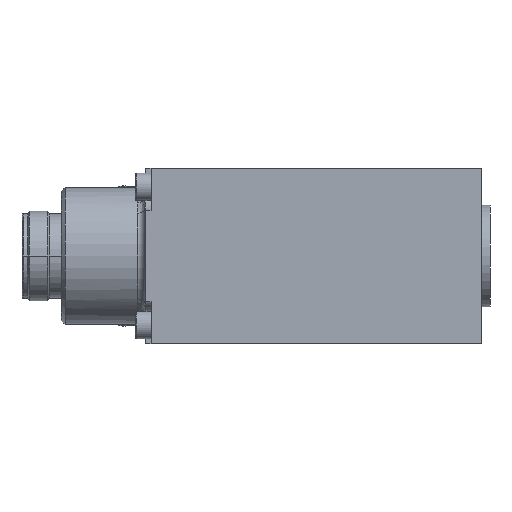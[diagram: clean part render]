
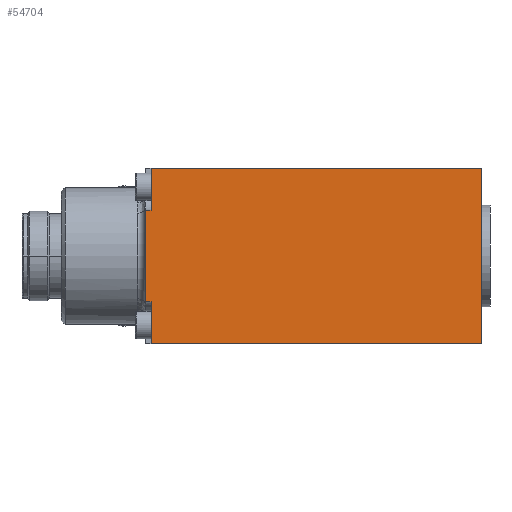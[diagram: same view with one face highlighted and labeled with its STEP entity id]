
A CAD part, front view. The second image highlights one B-rep face of the part: STEP entity #54704.
In plain terms, the highlighted planar face has unit normal (0, -1, 0).
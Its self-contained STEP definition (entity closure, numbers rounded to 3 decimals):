
#4561 = CARTESIAN_POINT ( 'NONE',  ( 1.5, -22.5, 22.5 ) ) ;
#18491 = CARTESIAN_POINT ( 'NONE',  ( 86., -22.5, 22.5 ) ) ;
#26054 = DIRECTION ( 'NONE',  ( 0., 1., 0. ) ) ;
#26751 = DIRECTION ( 'NONE',  ( 0., 0., 1. ) ) ;
#29327 = EDGE_LOOP ( 'NONE', ( #128957, #45511, #36037, #114530, #125500, #90717, #78807, #73653 ) ) ;
#30914 = CARTESIAN_POINT ( 'NONE',  ( 1.5, -22.5, -11.68 ) ) ;
#30981 = VECTOR ( 'NONE', #131034, 1000. ) ;
#32717 = CARTESIAN_POINT ( 'NONE',  ( 1.5, -22.5, 11.68 ) ) ;
#34669 = VECTOR ( 'NONE', #49012, 1000. ) ;
#36037 = ORIENTED_EDGE ( 'NONE', *, *, #111782, .T. ) ;
#37092 = PLANE ( 'NONE',  #93348 ) ;
#37137 = VERTEX_POINT ( 'NONE', #73810 ) ;
#40671 = CARTESIAN_POINT ( 'NONE',  ( 0., -22.5, 11.68 ) ) ;
#42229 = VECTOR ( 'NONE', #26751, 1000. ) ;
#43280 = VERTEX_POINT ( 'NONE', #45269 ) ;
#43575 = VERTEX_POINT ( 'NONE', #40671 ) ;
#44215 = DIRECTION ( 'NONE',  ( -1., 0., 0. ) ) ;
#44430 = LINE ( 'NONE', #18491, #132170 ) ;
#45269 = CARTESIAN_POINT ( 'NONE',  ( 1.5, -22.5, -22.5 ) ) ;
#45511 = ORIENTED_EDGE ( 'NONE', *, *, #51109, .T. ) ;
#49012 = DIRECTION ( 'NONE',  ( -1., 0., 0. ) ) ;
#49081 = VERTEX_POINT ( 'NONE', #129388 ) ;
#50989 = CARTESIAN_POINT ( 'NONE',  ( 0., -22.5, 22.5 ) ) ;
#51109 = EDGE_CURVE ( 'NONE', #37137, #43575, #101202, .T. ) ;
#54704 = ADVANCED_FACE ( 'NONE', ( #105485 ), #37092, .F. ) ;
#57992 = LINE ( 'NONE', #129047, #34669 ) ;
#71659 = CARTESIAN_POINT ( 'NONE',  ( 86., -22.5, 22.5 ) ) ;
#72360 = CARTESIAN_POINT ( 'NONE',  ( 1.5, -22.5, -11.68 ) ) ;
#72685 = LINE ( 'NONE', #72360, #42229 ) ;
#72892 = DIRECTION ( 'NONE',  ( -1., 0., 0. ) ) ;
#73653 = ORIENTED_EDGE ( 'NONE', *, *, #121198, .T. ) ;
#73810 = CARTESIAN_POINT ( 'NONE',  ( 1.5, -22.5, 11.68 ) ) ;
#74699 = EDGE_CURVE ( 'NONE', #43280, #111894, #72685, .T. ) ;
#77880 = CARTESIAN_POINT ( 'NONE',  ( 86., -22.5, -22.5 ) ) ;
#78807 = ORIENTED_EDGE ( 'NONE', *, *, #90786, .F. ) ;
#87961 = CARTESIAN_POINT ( 'NONE',  ( 1.5, -22.5, 11.68 ) ) ;
#89326 = DIRECTION ( 'NONE',  ( -1., 0., 0. ) ) ;
#90221 = LINE ( 'NONE', #87961, #147463 ) ;
#90717 = ORIENTED_EDGE ( 'NONE', *, *, #92300, .F. ) ;
#90786 = EDGE_CURVE ( 'NONE', #110757, #118637, #44430, .T. ) ;
#90789 = CARTESIAN_POINT ( 'NONE',  ( 86., -22.5, 22.5 ) ) ;
#92300 = EDGE_CURVE ( 'NONE', #118637, #43280, #94015, .T. ) ;
#93348 = AXIS2_PLACEMENT_3D ( 'NONE', #71659, #26054, #105979 ) ;
#94015 = LINE ( 'NONE', #77880, #120952 ) ;
#98496 = DIRECTION ( 'NONE',  ( 0., 0., -1. ) ) ;
#99410 = DIRECTION ( 'NONE',  ( 0., 0., 1. ) ) ;
#101202 = LINE ( 'NONE', #32717, #128112 ) ;
#105485 = FACE_OUTER_BOUND ( 'NONE', #29327, .T. ) ;
#105979 = DIRECTION ( 'NONE',  ( 0., 0., 1. ) ) ;
#110757 = VERTEX_POINT ( 'NONE', #90789 ) ;
#111782 = EDGE_CURVE ( 'NONE', #43575, #49081, #122272, .T. ) ;
#111894 = VERTEX_POINT ( 'NONE', #30914 ) ;
#114530 = ORIENTED_EDGE ( 'NONE', *, *, #143612, .F. ) ;
#114709 = CARTESIAN_POINT ( 'NONE',  ( 86., -22.5, -22.5 ) ) ;
#118637 = VERTEX_POINT ( 'NONE', #114709 ) ;
#120952 = VECTOR ( 'NONE', #89326, 1000. ) ;
#121198 = EDGE_CURVE ( 'NONE', #110757, #143657, #138933, .T. ) ;
#122272 = LINE ( 'NONE', #50989, #30981 ) ;
#125500 = ORIENTED_EDGE ( 'NONE', *, *, #74699, .F. ) ;
#125698 = EDGE_CURVE ( 'NONE', #37137, #143657, #90221, .T. ) ;
#128112 = VECTOR ( 'NONE', #44215, 1000. ) ;
#128957 = ORIENTED_EDGE ( 'NONE', *, *, #125698, .F. ) ;
#129047 = CARTESIAN_POINT ( 'NONE',  ( 1.5, -22.5, -11.68 ) ) ;
#129388 = CARTESIAN_POINT ( 'NONE',  ( 0., -22.5, -11.68 ) ) ;
#131034 = DIRECTION ( 'NONE',  ( 0., 0., -1. ) ) ;
#132170 = VECTOR ( 'NONE', #98496, 1000. ) ;
#135383 = VECTOR ( 'NONE', #72892, 1000. ) ;
#138933 = LINE ( 'NONE', #141319, #135383 ) ;
#141319 = CARTESIAN_POINT ( 'NONE',  ( 86., -22.5, 22.5 ) ) ;
#143612 = EDGE_CURVE ( 'NONE', #111894, #49081, #57992, .T. ) ;
#143657 = VERTEX_POINT ( 'NONE', #4561 ) ;
#147463 = VECTOR ( 'NONE', #99410, 1000. ) ;
